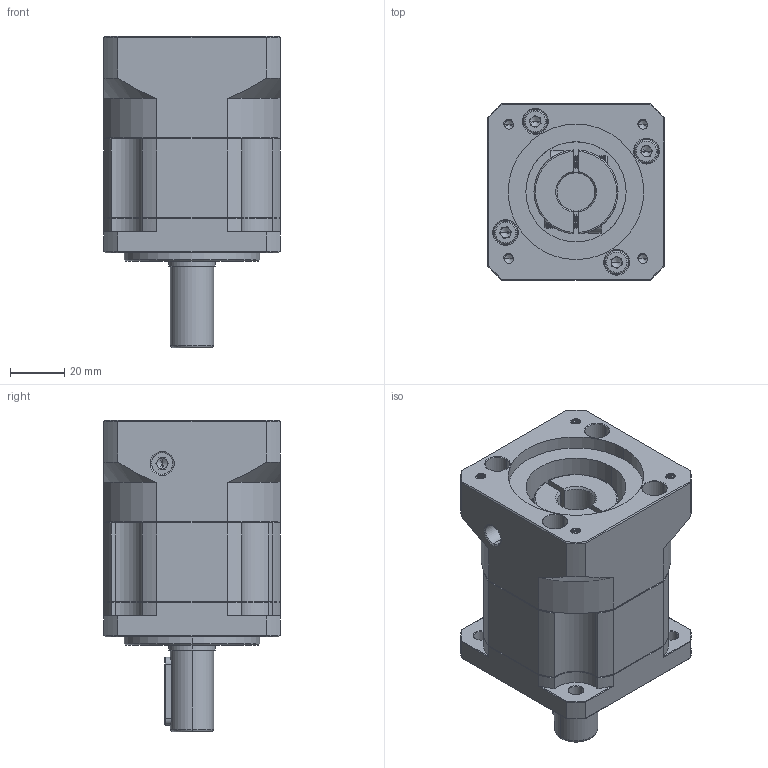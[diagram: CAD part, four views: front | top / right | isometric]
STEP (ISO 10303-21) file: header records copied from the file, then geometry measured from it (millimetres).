
FILE_DESCRIPTION (( 'STEP AP214' ), '1' );
FILE_NAME ('ZB060-D16-L1-P2-14-50-70-M4.step', '2023-08-16T07:04:33', ( '' ), ( '' ), 'SwSTEP 2.0', 'SolidWorks 2016', '' );
FILE_SCHEMA (( 'AUTOMOTIVE_DESIGN' ));
Length unit declared in the file: millimetre
Products named in the file (1): ZB060-D16-L1-P2-14-50-70-M4
Bounding box: 65 x 65 x 115 mm (x, y, z)
Volume: 270267.2 mm3; surface area: 54672.5 mm2
Topology: 6 solids, 6 shells, 2152 faces, 5796 edges, 3732 vertices
Faces by surface type: plane 1059, bspline 397, cylinder 381, cone 281, torus 34
Entity records: 114760 total; most frequent: CARTESIAN_POINT 40209, ORIENTED_EDGE 11532, DIRECTION 9080, EDGE_CURVE 5766, VERTEX_POINT 3732, LINE 3634, VECTOR 3634, AXIS2_PLACEMENT_3D 2723
